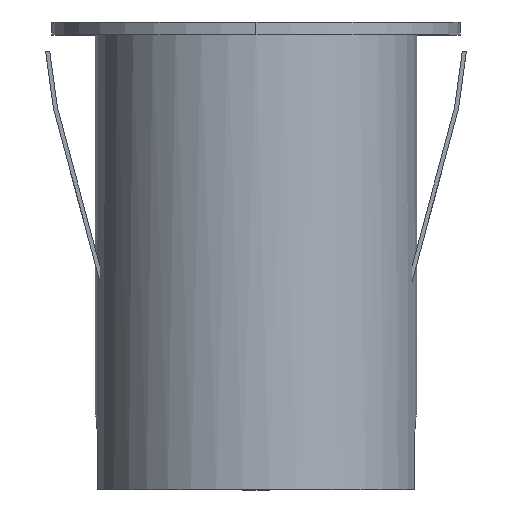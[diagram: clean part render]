
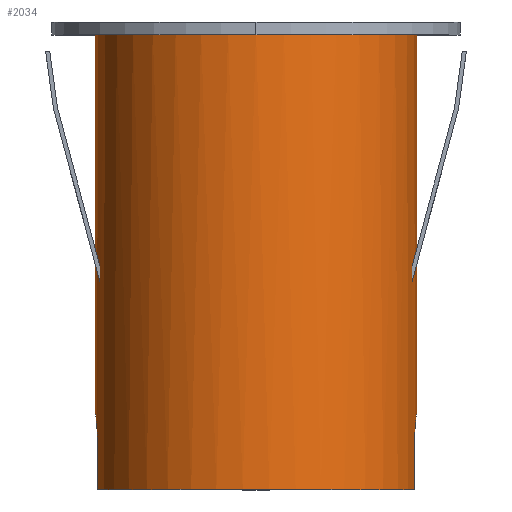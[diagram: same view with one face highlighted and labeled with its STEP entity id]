
A CAD part, top view. The second image highlights one B-rep face of the part: STEP entity #2034.
In plain terms, the highlighted cylindrical face has radius 31.5 mm (diameter 63 mm), a partial arc.
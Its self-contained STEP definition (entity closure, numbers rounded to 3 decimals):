
#32=CIRCLE('',#2183,31.5);
#37=CIRCLE('',#2190,31.5);
#149=B_SPLINE_CURVE_WITH_KNOTS('',3,(#3167,#3168,#3169,#3170,#3171,#3172,
#3173,#3174,#3175,#3176,#3177,#3178,#3179,#3180,#3181,#3182,#3183,#3184),
 .UNSPECIFIED.,.F.,.F.,(4,2,2,2,2,2,2,2,4),(7.547,8.491,
9.434,10.378,11.321,12.265,13.208,
14.151,15.095),.UNSPECIFIED.);
#154=B_SPLINE_CURVE_WITH_KNOTS('',3,(#3262,#3263,#3264,#3265,#3266,#3267,
#3268,#3269,#3270,#3271,#3272,#3273,#3274,#3275,#3276,#3277,#3278,#3279),
 .UNSPECIFIED.,.F.,.F.,(4,2,2,2,2,2,2,2,4),(15.095,16.038,
16.982,17.925,18.869,19.812,20.756,
21.699,22.642),.UNSPECIFIED.);
#165=CYLINDRICAL_SURFACE('',#2194,31.5);
#234=FACE_OUTER_BOUND('',#380,.T.);
#380=EDGE_LOOP('',(#1390,#1391,#1392,#1393,#1394,#1395,#1396,#1397));
#518=LINE('',#3159,#692);
#527=LINE('',#3329,#701);
#532=LINE('',#3352,#706);
#533=LINE('',#3353,#707);
#692=VECTOR('',#2451,304.8);
#701=VECTOR('',#2468,304.8);
#706=VECTOR('',#2499,1.);
#707=VECTOR('',#2500,1.);
#866=VERTEX_POINT('',#3157);
#867=VERTEX_POINT('',#3158);
#870=VERTEX_POINT('',#3166);
#872=VERTEX_POINT('',#3241);
#874=VERTEX_POINT('',#3261);
#880=VERTEX_POINT('',#3328);
#882=VERTEX_POINT('',#3334);
#883=VERTEX_POINT('',#3335);
#1034=EDGE_CURVE('',#866,#867,#518,.T.);
#1038=EDGE_CURVE('',#870,#866,#149,.T.);
#1043=EDGE_CURVE('',#874,#872,#154,.T.);
#1051=EDGE_CURVE('',#880,#874,#527,.T.);
#1055=EDGE_CURVE('',#883,#882,#32,.T.);
#1060=EDGE_CURVE('',#867,#880,#37,.T.);
#1064=EDGE_CURVE('',#882,#870,#532,.T.);
#1065=EDGE_CURVE('',#872,#883,#533,.T.);
#1390=ORIENTED_EDGE('',*,*,#1064,.T.);
#1391=ORIENTED_EDGE('',*,*,#1038,.T.);
#1392=ORIENTED_EDGE('',*,*,#1034,.T.);
#1393=ORIENTED_EDGE('',*,*,#1060,.T.);
#1394=ORIENTED_EDGE('',*,*,#1051,.T.);
#1395=ORIENTED_EDGE('',*,*,#1043,.T.);
#1396=ORIENTED_EDGE('',*,*,#1065,.T.);
#1397=ORIENTED_EDGE('',*,*,#1055,.T.);
#2034=ADVANCED_FACE('',(#234),#165,.T.);
#2183=AXIS2_PLACEMENT_3D('',#3337,#2475,#2476);
#2190=AXIS2_PLACEMENT_3D('',#3346,#2489,#2490);
#2194=AXIS2_PLACEMENT_3D('',#3354,#2501,#2502);
#2451=DIRECTION('',(0.,0.,-1.));
#2468=DIRECTION('',(0.,0.,1.));
#2475=DIRECTION('center_axis',(0.,0.,-1.));
#2476=DIRECTION('ref_axis',(-1.,0.,0.));
#2489=DIRECTION('center_axis',(0.,0.,1.));
#2490=DIRECTION('ref_axis',(-1.,0.,0.));
#2499=DIRECTION('',(0.,0.,-1.));
#2500=DIRECTION('',(0.,0.,1.));
#2501=DIRECTION('center_axis',(0.,0.,-1.));
#2502=DIRECTION('ref_axis',(-1.,0.,0.));
#3157=CARTESIAN_POINT('',(-31.101,-5.,-5.5));
#3158=CARTESIAN_POINT('',(-31.101,-5.,-15.5));
#3159=CARTESIAN_POINT('',(-31.101,-5.,-5.5));
#3166=CARTESIAN_POINT('',(-31.5,0.,-0.5));
#3167=CARTESIAN_POINT('Ctrl Pts',(-31.5,0.,-0.5));
#3168=CARTESIAN_POINT('Ctrl Pts',(-31.5,-0.314,-0.5));
#3169=CARTESIAN_POINT('Ctrl Pts',(-31.495,-0.64,
-0.53));
#3170=CARTESIAN_POINT('Ctrl Pts',(-31.475,-1.286,-0.657));
#3171=CARTESIAN_POINT('Ctrl Pts',(-31.46,-1.607,-0.754));
#3172=CARTESIAN_POINT('Ctrl Pts',(-31.423,-2.223,-1.009));
#3173=CARTESIAN_POINT('Ctrl Pts',(-31.4,-2.518,-1.168));
#3174=CARTESIAN_POINT('Ctrl Pts',(-31.352,-3.063,-1.535));
#3175=CARTESIAN_POINT('Ctrl Pts',(-31.326,-3.314,-1.743));
#3176=CARTESIAN_POINT('Ctrl Pts',(-31.276,-3.757,-2.186));
#3177=CARTESIAN_POINT('Ctrl Pts',(-31.25,-3.965,-2.437));
#3178=CARTESIAN_POINT('Ctrl Pts',(-31.201,-4.332,-2.982));
#3179=CARTESIAN_POINT('Ctrl Pts',(-31.178,-4.491,-3.277));
#3180=CARTESIAN_POINT('Ctrl Pts',(-31.141,-4.746,-3.893));
#3181=CARTESIAN_POINT('Ctrl Pts',(-31.126,-4.843,-4.214));
#3182=CARTESIAN_POINT('Ctrl Pts',(-31.106,-4.97,-4.86));
#3183=CARTESIAN_POINT('Ctrl Pts',(-31.101,-5.,-5.186));
#3184=CARTESIAN_POINT('Ctrl Pts',(-31.101,-5.,-5.5));
#3241=CARTESIAN_POINT('',(31.5,0.,-0.5));
#3261=CARTESIAN_POINT('',(31.101,-5.,-5.5));
#3262=CARTESIAN_POINT('Ctrl Pts',(31.101,-5.,-5.5));
#3263=CARTESIAN_POINT('Ctrl Pts',(31.101,-5.,-5.186));
#3264=CARTESIAN_POINT('Ctrl Pts',(31.106,-4.97,-4.86));
#3265=CARTESIAN_POINT('Ctrl Pts',(31.126,-4.843,-4.214));
#3266=CARTESIAN_POINT('Ctrl Pts',(31.141,-4.746,-3.893));
#3267=CARTESIAN_POINT('Ctrl Pts',(31.178,-4.491,-3.277));
#3268=CARTESIAN_POINT('Ctrl Pts',(31.201,-4.332,-2.982));
#3269=CARTESIAN_POINT('Ctrl Pts',(31.25,-3.965,-2.437));
#3270=CARTESIAN_POINT('Ctrl Pts',(31.276,-3.757,-2.186));
#3271=CARTESIAN_POINT('Ctrl Pts',(31.326,-3.314,-1.743));
#3272=CARTESIAN_POINT('Ctrl Pts',(31.352,-3.063,-1.535));
#3273=CARTESIAN_POINT('Ctrl Pts',(31.4,-2.518,-1.168));
#3274=CARTESIAN_POINT('Ctrl Pts',(31.423,-2.223,-1.009));
#3275=CARTESIAN_POINT('Ctrl Pts',(31.46,-1.607,-0.754));
#3276=CARTESIAN_POINT('Ctrl Pts',(31.475,-1.286,-0.657));
#3277=CARTESIAN_POINT('Ctrl Pts',(31.495,-0.64,-0.53));
#3278=CARTESIAN_POINT('Ctrl Pts',(31.5,-0.314,-0.5));
#3279=CARTESIAN_POINT('Ctrl Pts',(31.5,0.,-0.5));
#3328=CARTESIAN_POINT('',(31.101,-5.,-15.5));
#3329=CARTESIAN_POINT('',(31.101,-5.,-15.5));
#3334=CARTESIAN_POINT('',(-31.5,0.,74.5));
#3335=CARTESIAN_POINT('',(31.5,0.,74.5));
#3337=CARTESIAN_POINT('Origin',(0.,0.,74.5));
#3346=CARTESIAN_POINT('Origin',(0.,0.,-15.5));
#3352=CARTESIAN_POINT('',(-31.5,0.,74.5));
#3353=CARTESIAN_POINT('',(31.5,0.,-0.5));
#3354=CARTESIAN_POINT('Origin',(0.,0.,84.5));
